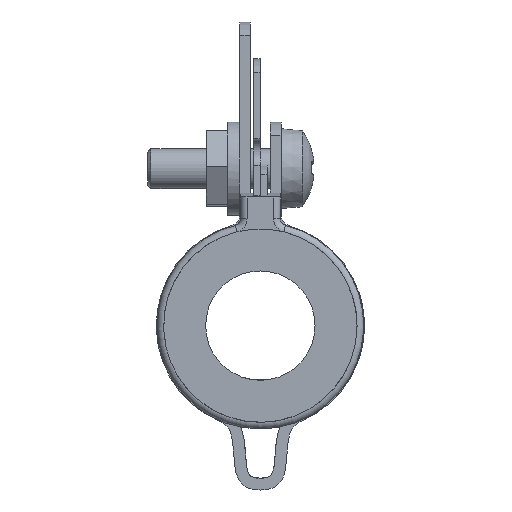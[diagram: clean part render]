
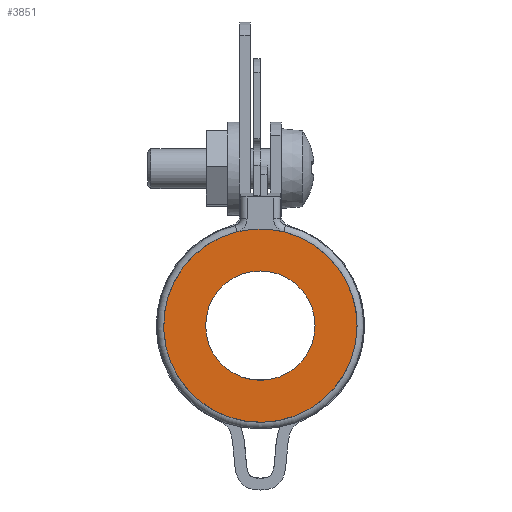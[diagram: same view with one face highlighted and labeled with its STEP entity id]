
A CAD part, front view. The second image highlights one B-rep face of the part: STEP entity #3851.
In plain terms, the highlighted planar face has unit normal (0, -1, 0).
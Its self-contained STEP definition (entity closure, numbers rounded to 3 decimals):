
#116=FACE_BOUND($,#671,.T.);
#409=FACE_OUTER_BOUND($,#670,.T.);
#670=EDGE_LOOP($,(#3252));
#671=EDGE_LOOP($,(#3253));
#888=CIRCLE($,#4245,7.25);
#893=CIRCLE($,#4268,4.1);
#1737=VERTEX_POINT($,#6728);
#1748=VERTEX_POINT($,#6772);
#2241=EDGE_CURVE($,#1737,#1737,#888,.T.);
#2256=EDGE_CURVE($,#1748,#1748,#893,.T.);
#3252=ORIENTED_EDGE($,*,*,#2241,.T.);
#3253=ORIENTED_EDGE($,*,*,#2256,.T.);
#3421=PLANE($,#4271);
#3851=ADVANCED_FACE($,(#409,#116),#3421,.T.);
#4245=AXIS2_PLACEMENT_3D($,#6729,#5281,#5282);
#4268=AXIS2_PLACEMENT_3D($,#6773,#5337,#5338);
#4271=AXIS2_PLACEMENT_3D($,#6776,#5343,#5344);
#5281=DIRECTION('center_axis',(0.,-1.,0.));
#5282=DIRECTION('ref_axis',(-1.,0.,0.));
#5337=DIRECTION('center_axis',(0.,1.,0.));
#5338=DIRECTION('ref_axis',(1.,0.,0.));
#5343=DIRECTION('center_axis',(0.,-1.,0.));
#5344=DIRECTION('ref_axis',(0.,0.,-1.));
#6728=CARTESIAN_POINT('',(7.25,0.,0.));
#6729=CARTESIAN_POINT('Origin',(0.,0.,0.));
#6772=CARTESIAN_POINT('',(-4.1,0.,0.));
#6773=CARTESIAN_POINT('Origin',(0.,0.,0.));
#6776=CARTESIAN_POINT('Origin',(0.,0.,0.));
